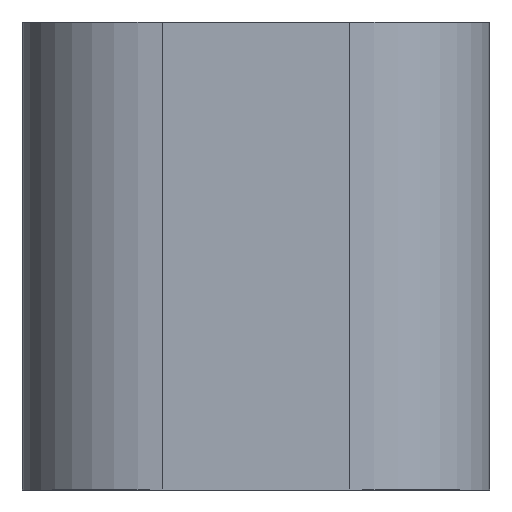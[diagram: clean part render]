
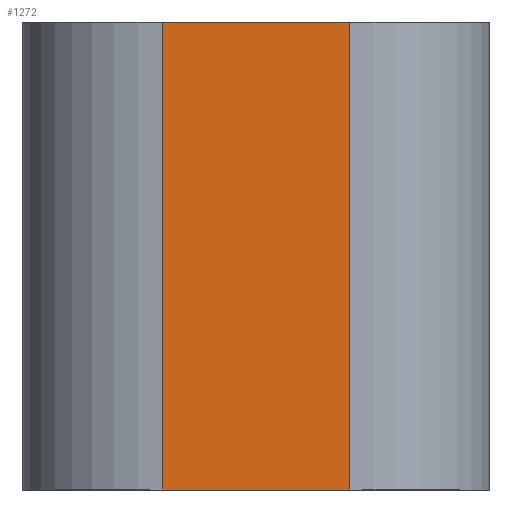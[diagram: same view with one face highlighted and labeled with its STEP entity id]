
A CAD part, front view. The second image highlights one B-rep face of the part: STEP entity #1272.
In plain terms, the highlighted planar face has unit normal (0, -1, 0).
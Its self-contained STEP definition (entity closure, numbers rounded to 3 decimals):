
#587 = VERTEX_POINT('',#588);
#588 = CARTESIAN_POINT('',(-1.,-30.,-2.5));
#595 = EDGE_CURVE('',#587,#596,#598,.T.);
#596 = VERTEX_POINT('',#597);
#597 = CARTESIAN_POINT('',(1.,-30.,-2.5));
#598 = LINE('',#599,#600);
#599 = CARTESIAN_POINT('',(-2.5,-30.,-2.5));
#600 = VECTOR('',#601,1.);
#601 = DIRECTION('',(1.,0.,0.));
#635 = VERTEX_POINT('',#636);
#636 = CARTESIAN_POINT('',(-1.,-30.,2.5));
#643 = EDGE_CURVE('',#635,#587,#644,.T.);
#644 = LINE('',#645,#646);
#645 = CARTESIAN_POINT('',(-1.,-30.,2.5));
#646 = VECTOR('',#647,1.);
#647 = DIRECTION('',(0.,0.,-1.));
#677 = VERTEX_POINT('',#678);
#678 = CARTESIAN_POINT('',(1.,-30.,2.5));
#685 = EDGE_CURVE('',#677,#635,#686,.T.);
#686 = LINE('',#687,#688);
#687 = CARTESIAN_POINT('',(2.5,-30.,2.5));
#688 = VECTOR('',#689,1.);
#689 = DIRECTION('',(-1.,0.,0.));
#1272 = ADVANCED_FACE('',(#1273),#1284,.F.);
#1273 = FACE_BOUND('',#1274,.F.);
#1274 = EDGE_LOOP('',(#1275,#1276,#1277,#1278));
#1275 = ORIENTED_EDGE('',*,*,#595,.F.);
#1276 = ORIENTED_EDGE('',*,*,#643,.F.);
#1277 = ORIENTED_EDGE('',*,*,#685,.F.);
#1278 = ORIENTED_EDGE('',*,*,#1279,.F.);
#1279 = EDGE_CURVE('',#596,#677,#1280,.T.);
#1280 = LINE('',#1281,#1282);
#1281 = CARTESIAN_POINT('',(1.,-30.,-2.5));
#1282 = VECTOR('',#1283,1.);
#1283 = DIRECTION('',(0.,0.,1.));
#1284 = PLANE('',#1285);
#1285 = AXIS2_PLACEMENT_3D('',#1286,#1287,#1288);
#1286 = CARTESIAN_POINT('',(0.,-30.,0.));
#1287 = DIRECTION('',(0.,1.,0.));
#1288 = DIRECTION('',(0.,0.,1.));
